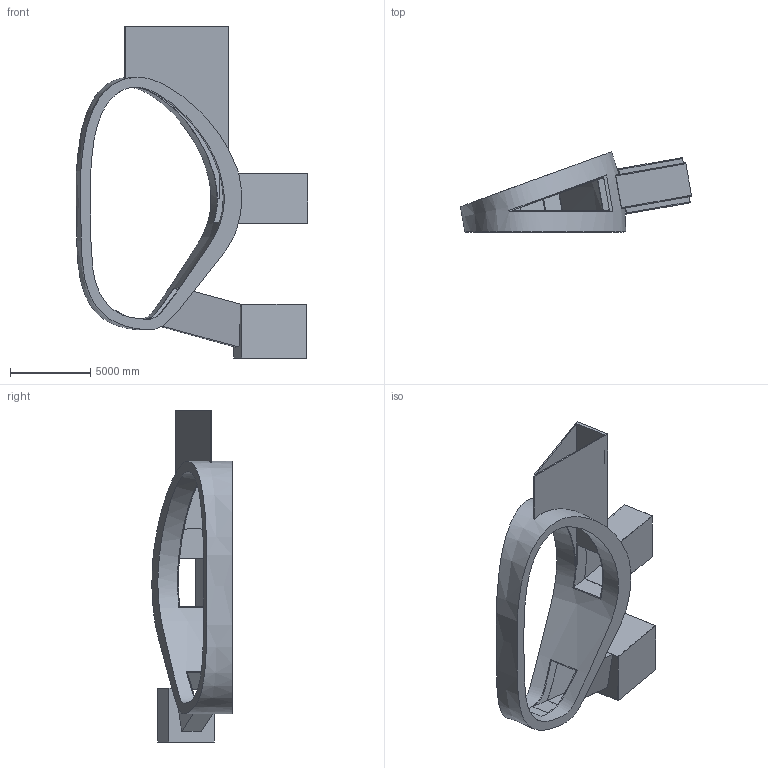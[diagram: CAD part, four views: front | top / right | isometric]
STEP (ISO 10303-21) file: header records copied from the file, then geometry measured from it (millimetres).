
FILE_DESCRIPTION(('FreeCAD Model'),'2;1');
FILE_NAME('Open CASCADE Shape Model','2026-10-11T08:18:56',('Bluemira'), ('Bluemira'),'Open CASCADE STEP processor 7.8','FreeCAD','Unknown');
FILE_SCHEMA(('AP242_MANAGED_MODEL_BASED_3D_ENGINEERING_MIM_LF. {1 0 10303 442 1 1 4 }'));
Products named in the file (1): Body_1
Bounding box: 14432.89 x 5003.69 x 20720.06 mm (x, y, z)
Volume: 90824896573.5 mm3; surface area: 707659838.2 mm2
Topology: 1 solids, 1 shells, 67 faces, 186 edges, 123 vertices
Faces by surface type: plane 55, revolution 12
Entity records: 43391 total; most frequent: CARTESIAN_POINT 40139, DIRECTION 415, ORIENTED_EDGE 372, PCURVE 372, DEFINITIONAL_REPRESENTATION 372, B_SPLINE_CURVE_WITH_KNOTS 284, LINE 281, VECTOR 281
